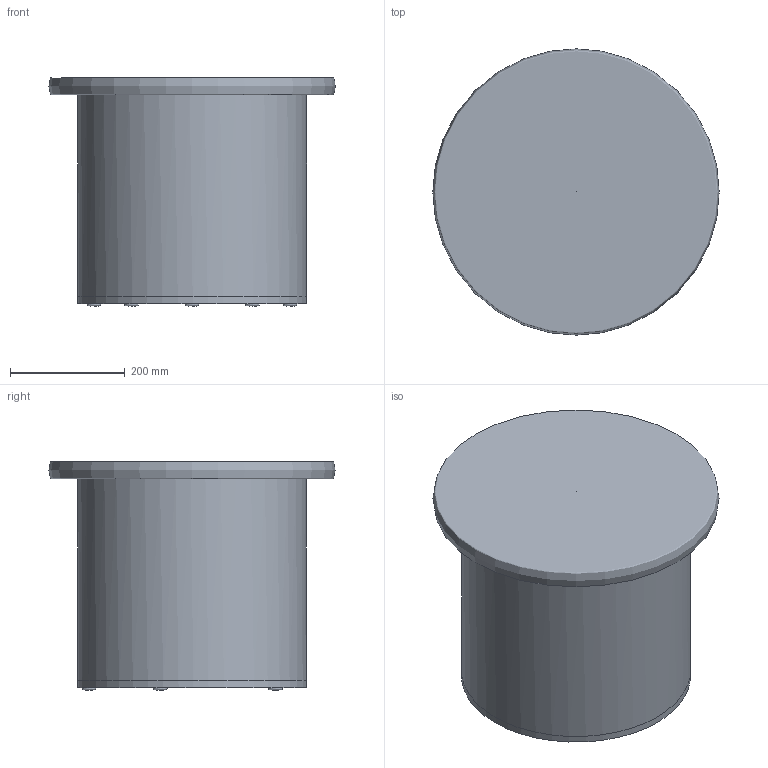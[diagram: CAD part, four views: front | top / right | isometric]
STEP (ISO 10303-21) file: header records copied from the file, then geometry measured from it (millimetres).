
FILE_DESCRIPTION(/* description */ (''),/* implementation_level */ '2;1');
FILE_NAME(/* name */ 'kinoshita_baobabland_k091',/* time_stamp */ '2025-05-29T14:23:43+09:00',/* author */ (''),/* organization */ (''),/* preprocessor_version */ 'ST-DEVELOPER v16.5',/* originating_system */ '',/* authorisation */ '');
FILE_SCHEMA (('AUTOMOTIVE_DESIGN'));
Length unit declared in the file: millimetre
Products named in the file (1): Document
Bounding box: 499.97 x 500 x 399.97 mm (x, y, z)
Surface area: 961675.2 mm2 (no closed solid volume)
Topology: 0 solids, 1 shells, 10 faces, 26 edges, 16 vertices
Faces by surface type: bspline 10
Entity records: 792 total; most frequent: CARTESIAN_POINT 648, ORIENTED_EDGE 39, EDGE_CURVE 20, VERTEX_POINT 16, EDGE_LOOP 15, ADVANCED_FACE 10, FACE_OUTER_BOUND 10, FACE_BOUND 5
